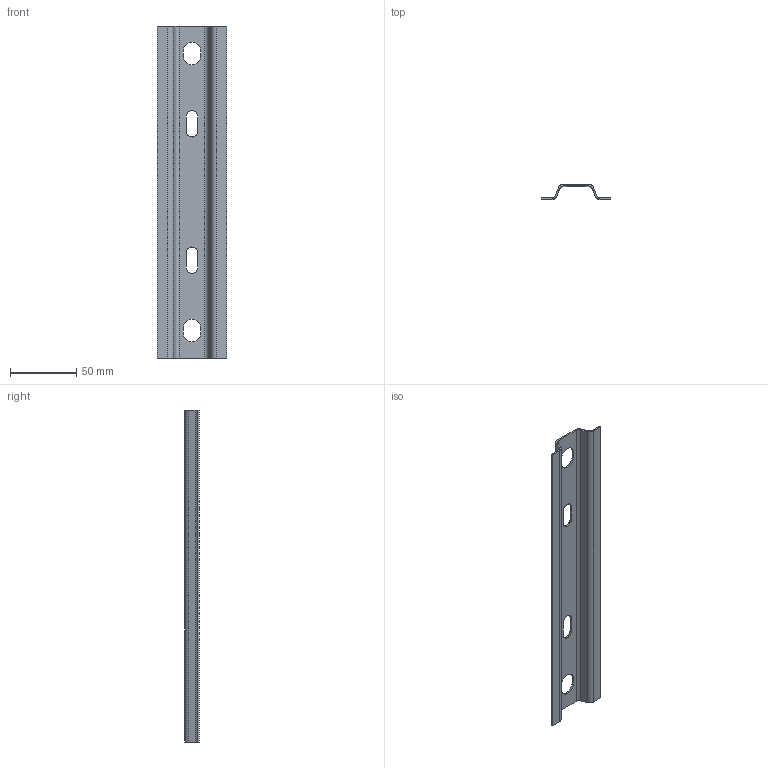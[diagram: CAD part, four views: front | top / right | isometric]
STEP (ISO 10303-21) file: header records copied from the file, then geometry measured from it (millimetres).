
FILE_DESCRIPTION (( 'STEP AP203' ), '1' );
FILE_NAME ('TB 150.STEP', '2024-09-05T04:23:33', ( '' ), ( '' ), 'SwSTEP 2.0', 'SolidWorks 2023', '' );
FILE_SCHEMA (( 'CONFIG_CONTROL_DESIGN' ));
Length unit declared in the file: millimetre
Products named in the file (1): TB 150
Bounding box: 52 x 11 x 250 mm (x, y, z)
Volume: 18155.4 mm3; surface area: 31246.4 mm2
Topology: 1 solids, 1 shells, 54 faces, 124 edges, 72 vertices
Faces by surface type: plane 38, cylinder 16
Entity records: 1577 total; most frequent: DIRECTION 266, CARTESIAN_POINT 251, ORIENTED_EDGE 248, EDGE_CURVE 124, LINE 92, VECTOR 92, AXIS2_PLACEMENT_3D 87, VERTEX_POINT 72
